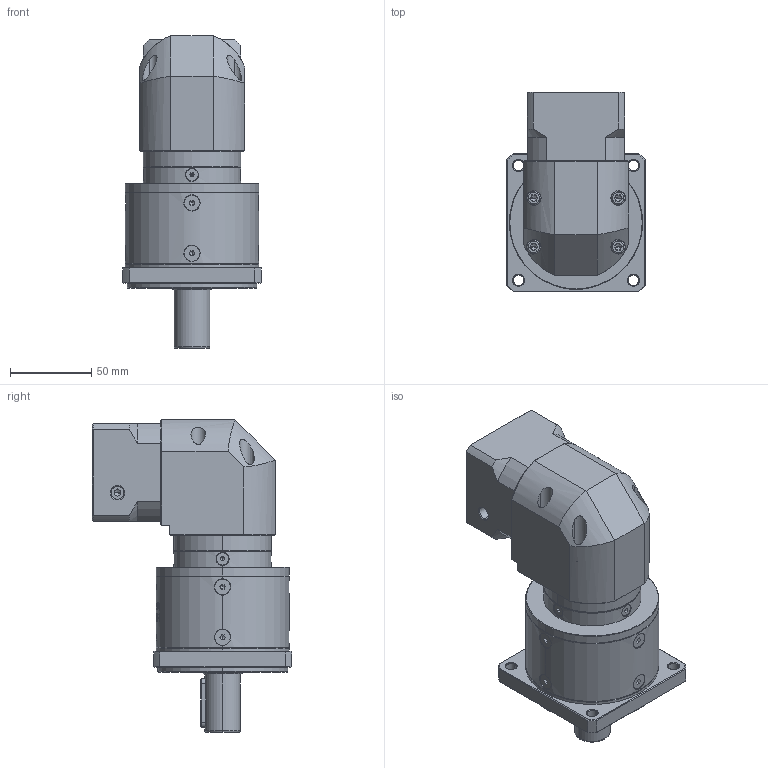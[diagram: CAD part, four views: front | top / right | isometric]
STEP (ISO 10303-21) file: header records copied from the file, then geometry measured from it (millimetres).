
FILE_DESCRIPTION (( 'STEP AP214' ), '1' );
FILE_NAME ('ZFR080-D22-L2-P2-14-50-70-M4.step', '2023-08-25T07:20:58', ( '' ), ( '' ), 'SwSTEP 2.0', 'SolidWorks 2016', '' );
FILE_SCHEMA (( 'AUTOMOTIVE_DESIGN' ));
Length unit declared in the file: millimetre
Products named in the file (1): ZFR080-D22-L2-P2-14-50-70-M4
Bounding box: 85 x 122.7 x 192.5 mm (x, y, z)
Volume: 787476.9 mm3; surface area: 102038.9 mm2
Topology: 17 solids, 18 shells, 2441 faces, 6361 edges, 4035 vertices
Faces by surface type: plane 1176, cylinder 442, bspline 406, cone 381, torus 36
Entity records: 124936 total; most frequent: CARTESIAN_POINT 43112, ORIENTED_EDGE 12630, DIRECTION 9747, EDGE_CURVE 6315, VERTEX_POINT 4035, VECTOR 3355, LINE 3355, AXIS2_PLACEMENT_3D 3196
